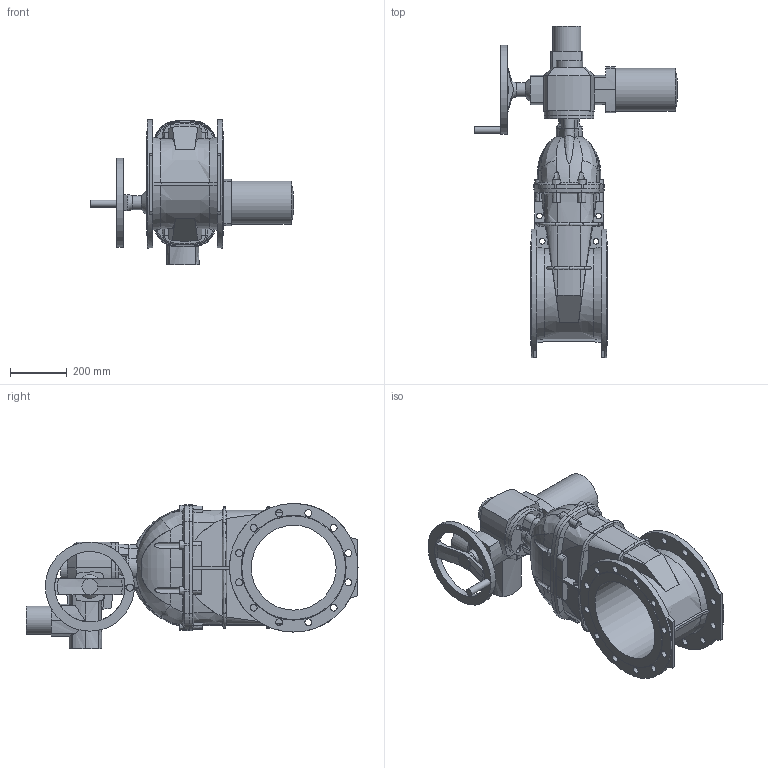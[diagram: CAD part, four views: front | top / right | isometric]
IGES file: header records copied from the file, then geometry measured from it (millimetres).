
Start section: SolidWorks IGES file using analytic representation for surfaces
Global section: file name: D:\Arthur\For Will\Finished\O_15_42_DN300 with AUMA\O_15_42_DN300_00_iges with AUMA.IGS; native system: SolidWorks 2012; preprocessor: SolidWorks 2012; author: aran; date: 150611.154051; units: millimetre
Bounding box: 721 x 1174.5 x 513.5 mm (x, y, z)
Surface area: 2146474 mm2 (no closed solid volume)
Topology: 0 solids, 0 shells, 541 faces, 2974 edges, 2884 vertices
Faces by surface type: revolution 312, bspline 229
